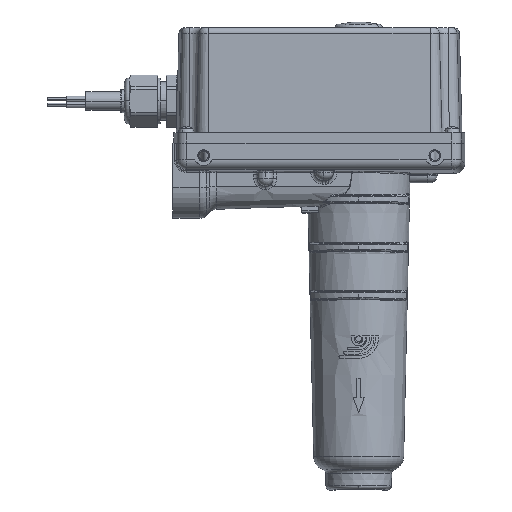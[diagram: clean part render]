
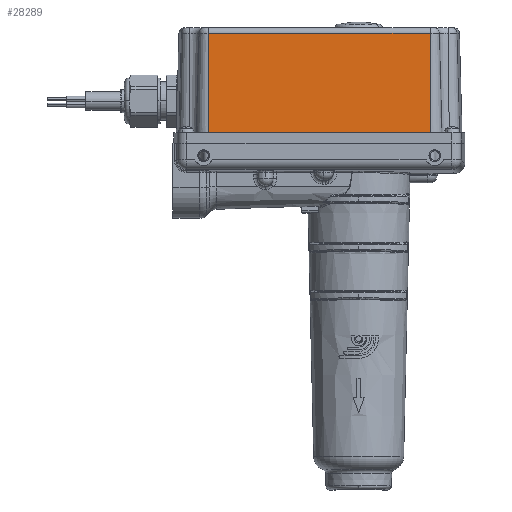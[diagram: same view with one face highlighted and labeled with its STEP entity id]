
A CAD part, top view. The second image highlights one B-rep face of the part: STEP entity #28289.
In plain terms, the highlighted planar face has unit normal (0, 0.026, 1) as drawn and (0, -0.026, -1) by its records, which use the part's own axes.
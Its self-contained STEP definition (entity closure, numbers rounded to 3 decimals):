
#403 = PLANE ( 'NONE',  #16242 ) ;
#1908 = DIRECTION ( 'NONE',  ( 0., 1., -0.026 ) ) ;
#3176 = LINE ( 'NONE', #15075, #37654 ) ;
#3573 = DIRECTION ( 'NONE',  ( 0., 1., -0.026 ) ) ;
#4752 = LINE ( 'NONE', #21904, #26239 ) ;
#4838 = DIRECTION ( 'NONE',  ( -1., 0., 0. ) ) ;
#8180 = CARTESIAN_POINT ( 'NONE',  ( -78.123, -5.5, -46.156 ) ) ;
#8234 = CARTESIAN_POINT ( 'NONE',  ( 37.123, 0., -46.3 ) ) ;
#12934 = EDGE_CURVE ( 'NONE', #27126, #25937, #4752, .T. ) ;
#15075 = CARTESIAN_POINT ( 'NONE',  ( -20.5, -5.5, -46.156 ) ) ;
#15133 = EDGE_CURVE ( 'NONE', #25937, #33037, #3176, .T. ) ;
#16242 = AXIS2_PLACEMENT_3D ( 'NONE', #27999, #19045, #22123 ) ;
#17516 = CARTESIAN_POINT ( 'NONE',  ( 55., -57.079, -44.805 ) ) ;
#17519 = EDGE_CURVE ( 'NONE', #29156, #33037, #25053, .T. ) ;
#17742 = DIRECTION ( 'NONE',  ( 1., 0., 0. ) ) ;
#17806 = ORIENTED_EDGE ( 'NONE', *, *, #39634, .T. ) ;
#19045 = DIRECTION ( 'NONE',  ( 0., -0.026, -1. ) ) ;
#19339 = VECTOR ( 'NONE', #4838, 1000. ) ;
#21904 = CARTESIAN_POINT ( 'NONE',  ( -78.123, 0., -46.3 ) ) ;
#22123 = DIRECTION ( 'NONE',  ( 0., 1., -0.026 ) ) ;
#24686 = ORIENTED_EDGE ( 'NONE', *, *, #15133, .T. ) ;
#24861 = ORIENTED_EDGE ( 'NONE', *, *, #12934, .T. ) ;
#25053 = LINE ( 'NONE', #8234, #28874 ) ;
#25937 = VERTEX_POINT ( 'NONE', #8180 ) ;
#26239 = VECTOR ( 'NONE', #3573, 1000. ) ;
#27126 = VERTEX_POINT ( 'NONE', #31256 ) ;
#27999 = CARTESIAN_POINT ( 'NONE',  ( 55., 0., -46.3 ) ) ;
#28006 = FACE_OUTER_BOUND ( 'NONE', #36535, .T. ) ;
#28289 = ADVANCED_FACE ( 'NONE', ( #28006 ), #403, .T. ) ;
#28874 = VECTOR ( 'NONE', #1908, 1000. ) ;
#29156 = VERTEX_POINT ( 'NONE', #38046 ) ;
#31256 = CARTESIAN_POINT ( 'NONE',  ( -78.123, -57.079, -44.805 ) ) ;
#31303 = LINE ( 'NONE', #17516, #19339 ) ;
#32098 = ORIENTED_EDGE ( 'NONE', *, *, #17519, .F. ) ;
#33037 = VERTEX_POINT ( 'NONE', #35809 ) ;
#35809 = CARTESIAN_POINT ( 'NONE',  ( 37.123, -5.5, -46.156 ) ) ;
#36535 = EDGE_LOOP ( 'NONE', ( #32098, #17806, #24861, #24686 ) ) ;
#37654 = VECTOR ( 'NONE', #17742, 1000. ) ;
#38046 = CARTESIAN_POINT ( 'NONE',  ( 37.123, -57.079, -44.805 ) ) ;
#39634 = EDGE_CURVE ( 'NONE', #29156, #27126, #31303, .T. ) ;
